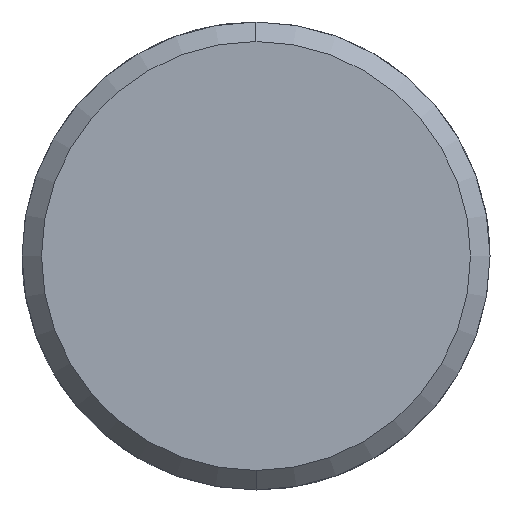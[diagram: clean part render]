
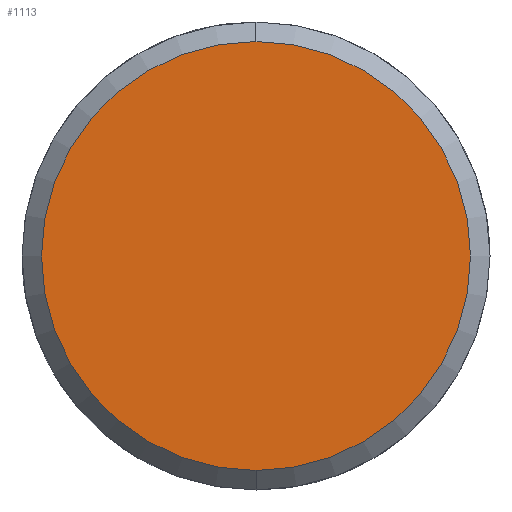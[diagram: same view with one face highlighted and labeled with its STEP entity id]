
A CAD part, left-side view. The second image highlights one B-rep face of the part: STEP entity #1113.
In plain terms, the highlighted planar face has unit normal (-1, 0, 0).
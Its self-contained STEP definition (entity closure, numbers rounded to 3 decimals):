
#1045=CARTESIAN_POINT('Vertex',(-5.,0.,-11.)) ;
#1048=CARTESIAN_POINT('Axis2P3D Location',(-5.,0.,0.)) ;
#1052=CARTESIAN_POINT('Vertex',(-5.,11.,0.)) ;
#1055=CARTESIAN_POINT('Axis2P3D Location',(-5.,0.,0.)) ;
#1059=CARTESIAN_POINT('Vertex',(-5.,0.,11.)) ;
#1081=CARTESIAN_POINT('Axis2P3D Location',(-5.,0.,0.)) ;
#1085=CARTESIAN_POINT('Vertex',(-5.,-11.,0.)) ;
#1088=CARTESIAN_POINT('Axis2P3D Location',(-5.,0.,0.)) ;
#1102=CARTESIAN_POINT('Axis2P3D Location',(-5.,0.,0.)) ;
#1049=DIRECTION('Axis2P3D Direction',(1.,0.,-0.)) ;
#1056=DIRECTION('Axis2P3D Direction',(1.,0.,-0.)) ;
#1082=DIRECTION('Axis2P3D Direction',(1.,0.,-0.)) ;
#1089=DIRECTION('Axis2P3D Direction',(1.,0.,-0.)) ;
#1103=DIRECTION('Axis2P3D Direction',(1.,0.,-0.)) ;
#1104=DIRECTION('Axis2P3D XDirection',(-0.,0.,-1.)) ;
#1050=AXIS2_PLACEMENT_3D('Circle Axis2P3D',#1048,#1049,$) ;
#1057=AXIS2_PLACEMENT_3D('Circle Axis2P3D',#1055,#1056,$) ;
#1083=AXIS2_PLACEMENT_3D('Circle Axis2P3D',#1081,#1082,$) ;
#1090=AXIS2_PLACEMENT_3D('Circle Axis2P3D',#1088,#1089,$) ;
#1105=AXIS2_PLACEMENT_3D('Plane Axis2P3D',#1102,#1103,#1104) ;
#1108=ORIENTED_EDGE('',*,*,#1054,.F.) ;
#1109=ORIENTED_EDGE('',*,*,#1092,.F.) ;
#1110=ORIENTED_EDGE('',*,*,#1087,.F.) ;
#1111=ORIENTED_EDGE('',*,*,#1061,.F.) ;
#1113=ADVANCED_FACE('351-14X56X100',(#1112),#1106,.F.) ;
#1051=CIRCLE('generated circle',#1050,11.) ;
#1058=CIRCLE('generated circle',#1057,11.) ;
#1084=CIRCLE('generated circle',#1083,11.) ;
#1091=CIRCLE('generated circle',#1090,11.) ;
#1054=EDGE_CURVE('',#1046,#1053,#1051,.T.) ;
#1061=EDGE_CURVE('',#1053,#1060,#1058,.T.) ;
#1087=EDGE_CURVE('',#1060,#1086,#1084,.T.) ;
#1092=EDGE_CURVE('',#1086,#1046,#1091,.T.) ;
#1107=EDGE_LOOP('',(#1108,#1109,#1110,#1111)) ;
#1112=FACE_OUTER_BOUND('',#1107,.T.) ;
#1106=PLANE('Plane',#1105) ;
#1046=VERTEX_POINT('',#1045) ;
#1053=VERTEX_POINT('',#1052) ;
#1060=VERTEX_POINT('',#1059) ;
#1086=VERTEX_POINT('',#1085) ;
